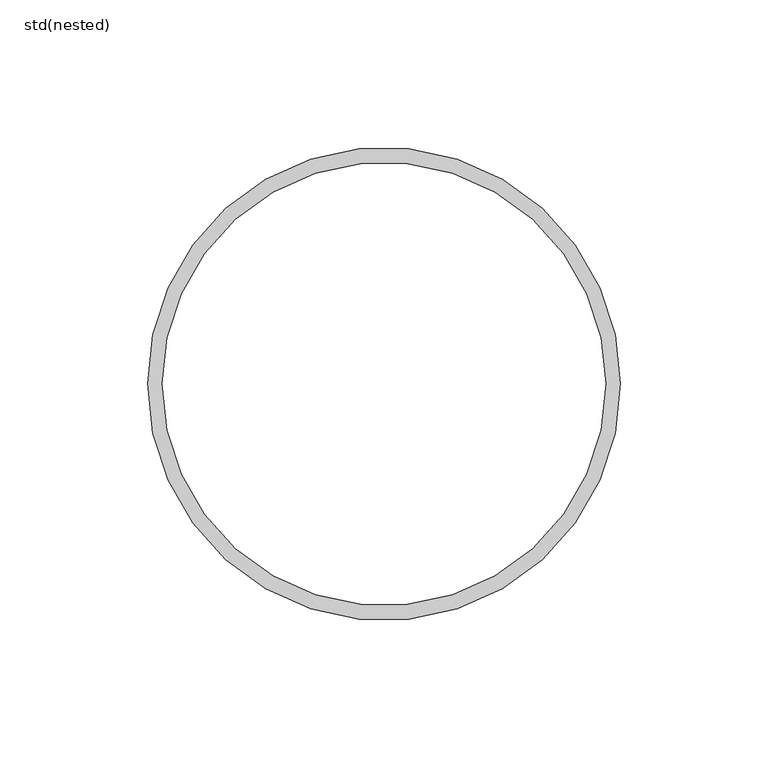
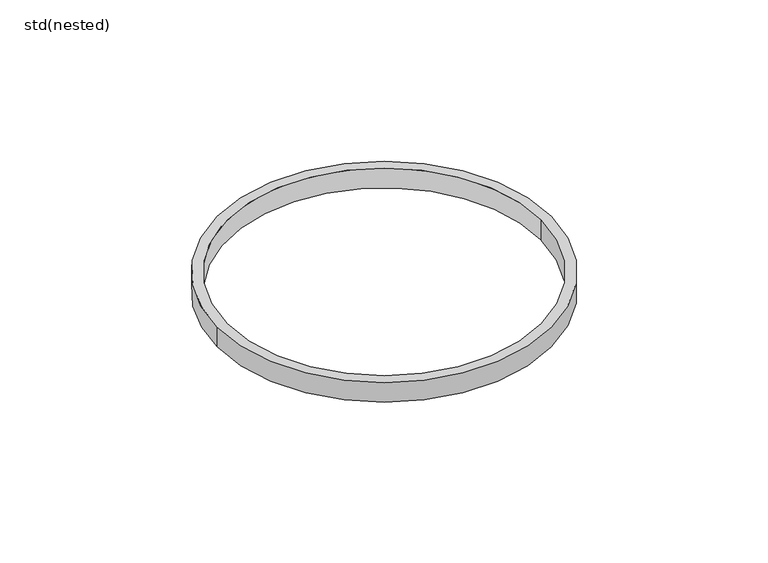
"""IFC4 building model written with IfcOpenShell, lengths in millimetres: pipe fitting geometry, ZZZ_do not use_ME_ST_WPB_Mulimax drill connection_ACO : std(nested)."""

from ifc_helpers import new_model, si_unit, point, origin, origin_with_axes, origin_2d, place, context, project, spatial, circle_curve, trimmed, segment, composite_curve, outline, extrude, source, transform, mapped, element, save


def std_nested_cb7352f3(model_context):
    return source(origin(), model_context, "Body", "SweptSolid", [
        extrude(outline(composite_curve([segment(trimmed(circle_curve(origin_2d(), 80.0), [point((-80.0, 0.0))], [point((80.0, 0.0))], False, "CARTESIAN"), True, "CONTINUOUS"), segment(trimmed(circle_curve(origin_2d(), 80.0), [point((80.0, 0.0))], [point((-80.0, 0.0))], False, "CARTESIAN"), True, "CONTINUOUS")], self_intersect=False), holes=[composite_curve([segment(trimmed(circle_curve(origin_2d(), 75.0), [point((-75.0, 0.0))], [point((75.0, 0.0))], True, "CARTESIAN"), True, "CONTINUOUS"), segment(trimmed(circle_curve(origin_2d(), 75.0), [point((75.0, 0.0))], [point((-75.0, 0.0))], True, "CARTESIAN"), True, "CONTINUOUS")], self_intersect=False)]), origin_with_axes(), (0.0, 0.0, 1.0), 10.0),
    ])


if __name__ == "__main__":
    model = new_model("IFC4")
    model_context = context("Model", 3, world=origin())
    ifc_project = project(units=[si_unit("LENGTHUNIT", "METRE", prefix="MILLI")], contexts=[model_context])
    site = spatial("IfcSite", under=ifc_project)
    building = spatial("IfcBuilding", under=site)
    placement = place(None, origin())
    std_nested_shape = std_nested_cb7352f3(model_context)
    element("IfcPipeFitting", 1, ObjectType="ZZZ_do not use_ME_ST_WPB_Mulimax drill connection_ACO : std(nested)", at=placement, inside=building, context=model_context, shape_type="MappedRepresentation", body=[
        mapped(std_nested_shape, transform((0.0, 0.0, 0.0), x_axis=(1.0, 0.0, 0.0), y_axis=(0.0, 1.0, 0.0), z_axis=(0.0, 0.0, 1.0))),
    ])
    save(model, "model.ifc")
